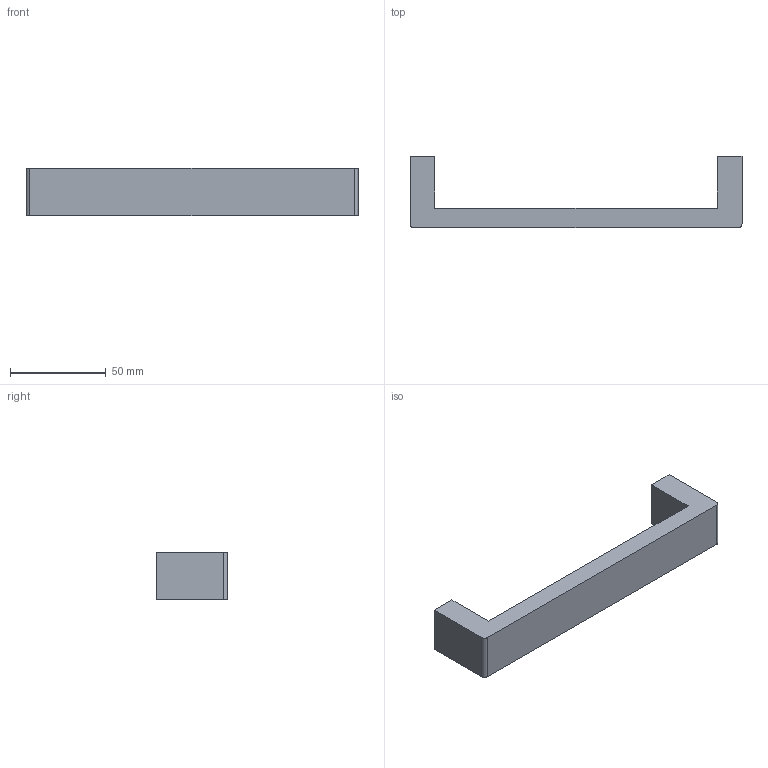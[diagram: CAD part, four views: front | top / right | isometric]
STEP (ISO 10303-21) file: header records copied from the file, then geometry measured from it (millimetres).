
FILE_DESCRIPTION( ( 'STEP AP214' ), '1' );
FILE_NAME( 'C:/Users/kulkarni/Desktop/Apurva/2015/Prodecor_2016/Cadfiles/same as files/Ponte/115385.stp', ' ', ( ' ' ), ( ' ' ), 'PSStep 15.0.47', 'PARTsolutions', ' ' );
FILE_SCHEMA( ( 'AUTOMOTIVE_DESIGN { 1 0 10303 214 1 1 1 1 }' ) );
Length unit declared in the file: millimetre
Products named in the file (1): _115385
Bounding box: 173 x 37 x 25 mm (x, y, z)
Volume: 60556 mm3; surface area: 16868.7 mm2
Topology: 1 solids, 1 shells, 16 faces, 36 edges, 24 vertices
Faces by surface type: plane 12, cylinder 4
Full cylindrical faces by diameter (mm): 4 x2
Entity records: 582 total; most frequent: DIRECTION 76, CARTESIAN_POINT 75, ORIENTED_EDGE 68, EDGE_CURVE 34, LINE 26, VECTOR 26, AXIS2_PLACEMENT_3D 25, VERTEX_POINT 24
